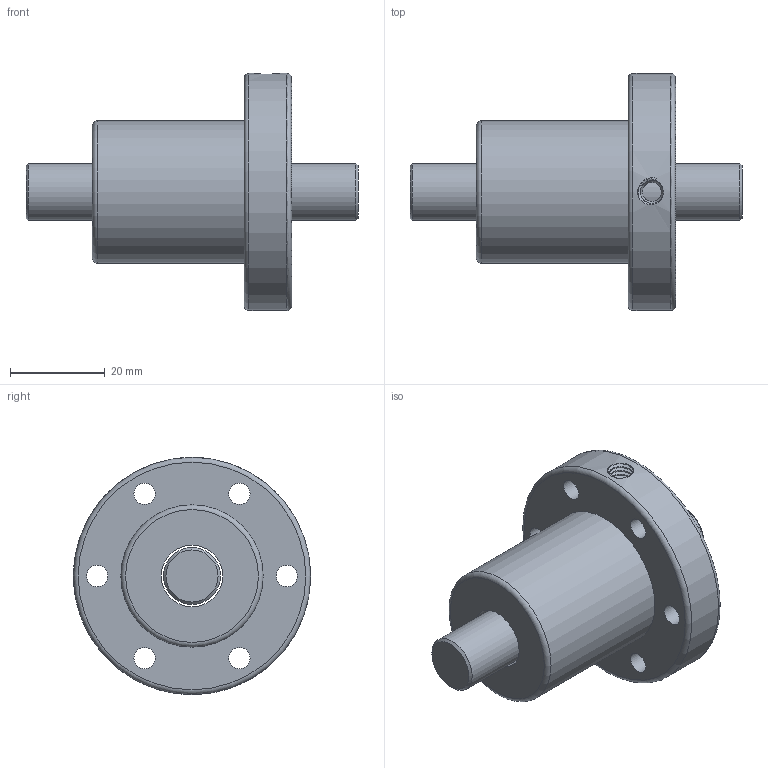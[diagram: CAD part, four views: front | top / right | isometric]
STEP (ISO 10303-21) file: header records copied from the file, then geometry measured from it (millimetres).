
FILE_DESCRIPTION(/* description */ ('Unknown','CAx-IF Rec.Pracs.---Representation and Presentation of Product Manufacturing Information (PMI)---4.0---2014-10-13','CAx-IF Rec.Pracs.---3D Tessellated Geometry---0.4---2014-09-14','2;1'),/* implementation_level */ '2;1');
FILE_NAME(/* name */ 'SFV01205-2.8',/* time_stamp */ '2020-12-08T09:31:33+08:00',/* author */ ('Unknown'),/* organization */ ('Unknown'),/* preprocessor_version */ 'ST-DEVELOPER v16.7',/* originating_system */ 'Solid Edge',/* authorisation */ 'Unknown');
FILE_SCHEMA (('AP242_MANAGED_MODEL_BASED_3D_ENGINEERING_MIM_LF { 1 0 10303 442 1 1 4 }'));
Length unit declared in the file: millimetre
Products named in the file (1): SFV01205-2.8
Bounding box: 70 x 50 x 50 mm (x, y, z)
Volume: 42305.5 mm3; surface area: 13893.5 mm2
Topology: 2 solids, 2 shells, 40 faces, 81 edges, 50 vertices
Faces by surface type: cylinder 20, plane 12, cone 3, torus 3, bspline 2
Full cylindrical faces by diameter (mm): 4 x1, 4.5 x6, 4.917 x1, 8 x6, 12 x1, 13 x1, 30 x1, 50 x1
Entity records: 3088 total; most frequent: CARTESIAN_POINT 2250, DIRECTION 170, ORIENTED_EDGE 108, AXIS2_PLACEMENT_3D 86, EDGE_LOOP 85, FACE_BOUND 85, EDGE_CURVE 54, VERTEX_POINT 47
